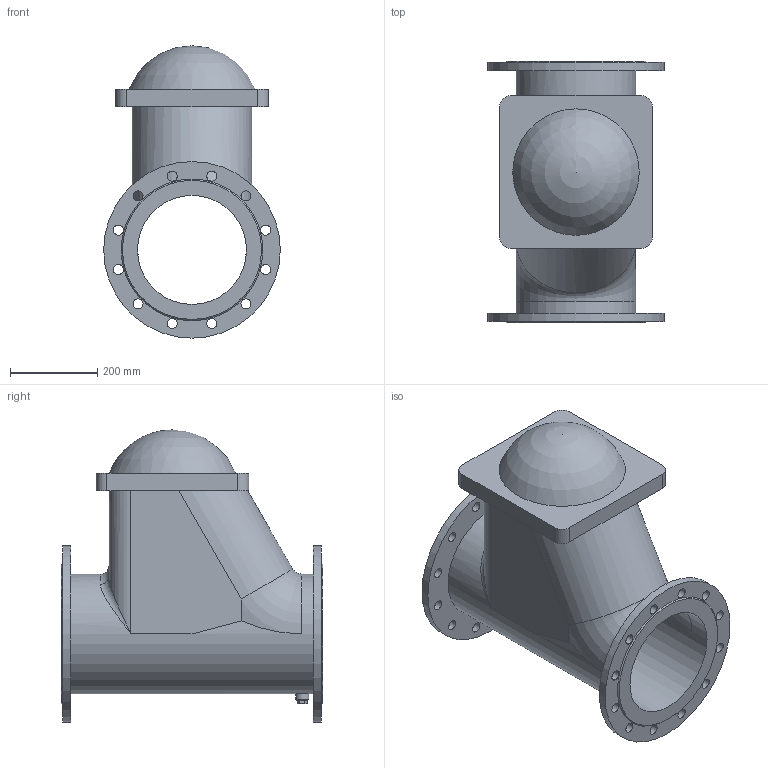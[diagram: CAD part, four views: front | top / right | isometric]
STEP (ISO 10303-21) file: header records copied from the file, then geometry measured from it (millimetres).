
FILE_DESCRIPTION(('STEP AP203'), '1');
FILE_NAME('Êëàïàí îáðàòíûé øàðîâîé ôëàíöåâûé 012F.Z DN250 PN10', '', ('UNSPECIFIED'), ('UNSPECIFIED'), 'ASCON STEP Converter 1.6', 'ASCON Math Kernel', '');
FILE_SCHEMA(('CONFIG_CONTROL_DESIGN'));
Length unit declared in the file: millimetre
Bounding box: 405 x 600 x 670.5 mm (x, y, z)
Volume: 31405030.4 mm3; surface area: 1899410.4 mm2
Topology: 1 solids, 1 shells, 78 faces, 200 edges, 130 vertices
Faces by surface type: cylinder 38, plane 32, torus 3, bspline 2, cone 2, sphere 1
Full cylindrical faces by diameter (mm): 23 x24, 25 x1, 30 x1, 250 x1, 274 x1, 405 x2
Entity records: 4118 total; most frequent: CARTESIAN_POINT 1588, DIRECTION 380, ORIENTED_EDGE 324, EDGE_LOOP 171, AXIS2_PLACEMENT_3D 162, EDGE_CURVE 162, VERTEX_POINT 129, FACE_BOUND 106
